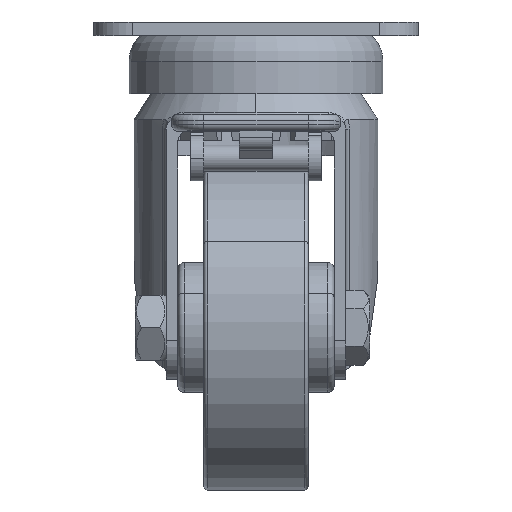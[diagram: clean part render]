
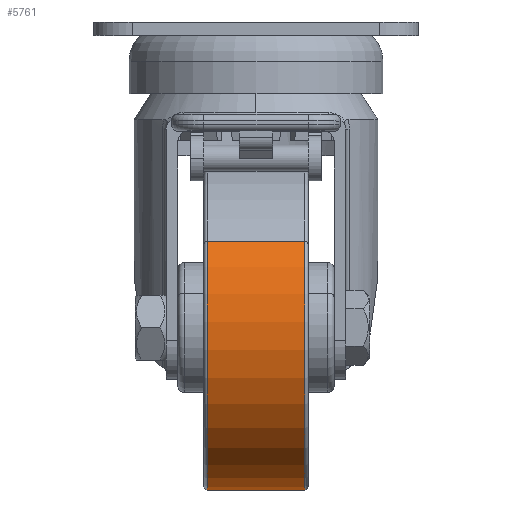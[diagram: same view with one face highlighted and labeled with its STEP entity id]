
A CAD part, top view. The second image highlights one B-rep face of the part: STEP entity #5761.
In plain terms, the highlighted cylindrical face has radius 25 mm (diameter 50 mm), a partial arc.
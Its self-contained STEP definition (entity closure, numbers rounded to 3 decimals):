
#74 = EDGE_CURVE ( 'NONE', #6672, #6967, #7191, .T. ) ;
#83 = DIRECTION ( 'NONE',  ( 0., 0., -1. ) ) ;
#441 = CARTESIAN_POINT ( 'NONE',  ( -25., 0., -7.5 ) ) ;
#486 = EDGE_CURVE ( 'NONE', #1994, #914, #6927, .T. ) ;
#914 = VERTEX_POINT ( 'NONE', #7936 ) ;
#1994 = VERTEX_POINT ( 'NONE', #2717 ) ;
#2330 = VECTOR ( 'NONE', #4593, 1000. ) ;
#2508 = EDGE_CURVE ( 'NONE', #1994, #6672, #5434, .T. ) ;
#2590 = ORIENTED_EDGE ( 'NONE', *, *, #6089, .T. ) ;
#2717 = CARTESIAN_POINT ( 'NONE',  ( 25., 0., 7.5 ) ) ;
#3277 = ORIENTED_EDGE ( 'NONE', *, *, #486, .F. ) ;
#3737 = DIRECTION ( 'NONE',  ( 0., 0., 1. ) ) ;
#4063 = CARTESIAN_POINT ( 'NONE',  ( -25., 0., 8. ) ) ;
#4216 = ORIENTED_EDGE ( 'NONE', *, *, #74, .T. ) ;
#4593 = DIRECTION ( 'NONE',  ( 0., 0., -1. ) ) ;
#4609 = VECTOR ( 'NONE', #9148, 1000. ) ;
#5199 = CARTESIAN_POINT ( 'NONE',  ( 0., 0., 7.5 ) ) ;
#5434 = CIRCLE ( 'NONE', #8282, 25. ) ;
#5484 = CIRCLE ( 'NONE', #10526, 25. ) ;
#5724 = DIRECTION ( 'NONE',  ( 0., 0., -1. ) ) ;
#5761 = ADVANCED_FACE ( 'NONE', ( #7753 ), #9760, .T. ) ;
#6053 = DIRECTION ( 'NONE',  ( 1., 0., 0. ) ) ;
#6089 = EDGE_CURVE ( 'NONE', #6967, #914, #5484, .T. ) ;
#6672 = VERTEX_POINT ( 'NONE', #6844 ) ;
#6844 = CARTESIAN_POINT ( 'NONE',  ( -25., 0., 7.5 ) ) ;
#6927 = LINE ( 'NONE', #9103, #2330 ) ;
#6967 = VERTEX_POINT ( 'NONE', #441 ) ;
#7191 = LINE ( 'NONE', #4063, #4609 ) ;
#7753 = FACE_OUTER_BOUND ( 'NONE', #9717, .T. ) ;
#7936 = CARTESIAN_POINT ( 'NONE',  ( 25., 0., -7.5 ) ) ;
#8282 = AXIS2_PLACEMENT_3D ( 'NONE', #5199, #83, #6053 ) ;
#8359 = DIRECTION ( 'NONE',  ( -1., 0., 0. ) ) ;
#8914 = CARTESIAN_POINT ( 'NONE',  ( 0., 0., -7.5 ) ) ;
#9103 = CARTESIAN_POINT ( 'NONE',  ( 25., 0., 8. ) ) ;
#9148 = DIRECTION ( 'NONE',  ( 0., 0., -1. ) ) ;
#9717 = EDGE_LOOP ( 'NONE', ( #3277, #10446, #4216, #2590 ) ) ;
#9760 = CYLINDRICAL_SURFACE ( 'NONE', #10373, 25. ) ;
#9764 = DIRECTION ( 'NONE',  ( 1., 0., 0. ) ) ;
#10094 = CARTESIAN_POINT ( 'NONE',  ( 0., 0., 8. ) ) ;
#10373 = AXIS2_PLACEMENT_3D ( 'NONE', #10094, #5724, #8359 ) ;
#10446 = ORIENTED_EDGE ( 'NONE', *, *, #2508, .T. ) ;
#10526 = AXIS2_PLACEMENT_3D ( 'NONE', #8914, #3737, #9764 ) ;
